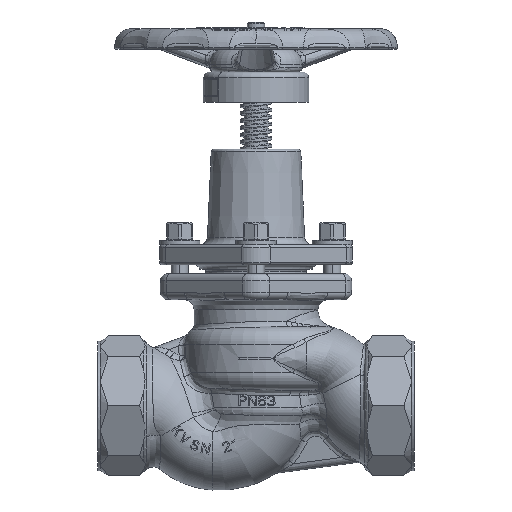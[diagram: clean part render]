
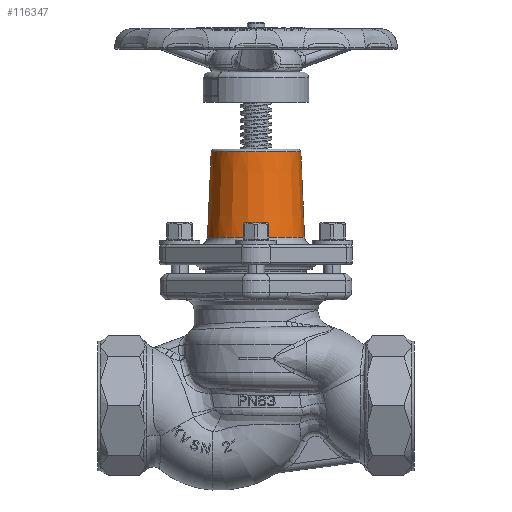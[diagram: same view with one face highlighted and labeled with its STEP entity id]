
A CAD part, front view. The second image highlights one B-rep face of the part: STEP entity #116347.
In plain terms, the highlighted conical face has half-angle 2.5 degrees and reference radius 32.475 mm.
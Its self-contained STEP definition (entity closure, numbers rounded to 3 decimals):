
#24628=DIRECTION('',(0.044,0.,-0.999));
#24629=VECTOR('',#24628,16.103);
#24630=CARTESIAN_POINT('',(31.18,0.,
176.687));
#24631=LINE('',#24630,#24629);
#24637=DIRECTION('',(-0.044,0.,-0.999));
#24638=VECTOR('',#24637,59.384);
#24639=CARTESIAN_POINT('',(-31.18,0.,176.687));
#24640=LINE('',#24639,#24638);
#24646=DIRECTION('',(0.044,0.,-0.999));
#24647=VECTOR('',#24646,39.277);
#24648=CARTESIAN_POINT('',(32.057,0.,156.6));
#24649=LINE('',#24648,#24647);
#24679=CARTESIAN_POINT('',(31.907,-2.,158.6));
#24680=CARTESIAN_POINT('',(31.905,-2.,158.642));
#24681=CARTESIAN_POINT('',(31.902,-1.997,
158.726));
#24682=CARTESIAN_POINT('',(31.897,-1.986,
158.851));
#24683=CARTESIAN_POINT('',(31.893,-1.966,
158.975));
#24684=CARTESIAN_POINT('',(31.889,-1.938,
159.098));
#24685=CARTESIAN_POINT('',(31.886,-1.903,
159.219));
#24686=CARTESIAN_POINT('',(31.883,-1.861,
159.337));
#24687=CARTESIAN_POINT('',(31.881,-1.811,
159.452));
#24688=CARTESIAN_POINT('',(31.879,-1.754,
159.564));
#24689=CARTESIAN_POINT('',(31.878,-1.69,
159.672));
#24690=CARTESIAN_POINT('',(31.877,-1.619,
159.776));
#24691=CARTESIAN_POINT('',(31.877,-1.542,
159.875));
#24692=CARTESIAN_POINT('',(31.877,-1.459,
159.969));
#24693=CARTESIAN_POINT('',(31.877,-1.371,
160.058));
#24694=CARTESIAN_POINT('',(31.877,-1.276,
160.142));
#24695=CARTESIAN_POINT('',(31.877,-1.177,
160.219));
#24696=CARTESIAN_POINT('',(31.878,-1.073,
160.289));
#24697=CARTESIAN_POINT('',(31.879,-0.965,
160.353));
#24698=CARTESIAN_POINT('',(31.879,-0.853,
160.411));
#24699=CARTESIAN_POINT('',(31.88,-0.737,
160.461));
#24700=CARTESIAN_POINT('',(31.881,-0.619,
160.503));
#24701=CARTESIAN_POINT('',(31.881,-0.498,
160.538));
#24702=CARTESIAN_POINT('',(31.882,-0.375,
160.566));
#24703=CARTESIAN_POINT('',(31.882,-0.251,
160.586));
#24704=CARTESIAN_POINT('',(31.882,-0.126,
160.597));
#24705=CARTESIAN_POINT('',(31.882,-0.042,160.6));
#24706=CARTESIAN_POINT('',(31.882,0.,160.6));
#24708=CARTESIAN_POINT('',(32.057,0.,156.6));
#24709=CARTESIAN_POINT('',(32.057,-0.042,156.6));
#24710=CARTESIAN_POINT('',(32.057,-0.125,
156.603));
#24711=CARTESIAN_POINT('',(32.056,-0.25,
156.614));
#24712=CARTESIAN_POINT('',(32.054,-0.374,
156.634));
#24713=CARTESIAN_POINT('',(32.051,-0.496,
156.661));
#24714=CARTESIAN_POINT('',(32.047,-0.617,
156.696));
#24715=CARTESIAN_POINT('',(32.043,-0.735,
156.739));
#24716=CARTESIAN_POINT('',(32.038,-0.85,
156.788));
#24717=CARTESIAN_POINT('',(32.032,-0.962,
156.845));
#24718=CARTESIAN_POINT('',(32.026,-1.07,
156.909));
#24719=CARTESIAN_POINT('',(32.019,-1.175,
156.98));
#24720=CARTESIAN_POINT('',(32.012,-1.274,
157.057));
#24721=CARTESIAN_POINT('',(32.004,-1.369,
157.14));
#24722=CARTESIAN_POINT('',(31.996,-1.458,
157.229));
#24723=CARTESIAN_POINT('',(31.988,-1.541,
157.323));
#24724=CARTESIAN_POINT('',(31.98,-1.618,
157.423));
#24725=CARTESIAN_POINT('',(31.972,-1.689,
157.527));
#24726=CARTESIAN_POINT('',(31.964,-1.753,
157.635));
#24727=CARTESIAN_POINT('',(31.956,-1.811,
157.747));
#24728=CARTESIAN_POINT('',(31.948,-1.861,
157.863));
#24729=CARTESIAN_POINT('',(31.94,-1.903,
157.981));
#24730=CARTESIAN_POINT('',(31.933,-1.938,
158.102));
#24731=CARTESIAN_POINT('',(31.926,-1.966,
158.225));
#24732=CARTESIAN_POINT('',(31.919,-1.986,
158.349));
#24733=CARTESIAN_POINT('',(31.913,-1.997,
158.474));
#24734=CARTESIAN_POINT('',(31.909,-2.,158.558));
#24735=CARTESIAN_POINT('',(31.907,-2.,158.6));
#24737=CARTESIAN_POINT('',(0.,0.,117.36));
#24738=DIRECTION('',(0.,0.,1.));
#24739=DIRECTION('',(-1.,0.,0.));
#24740=AXIS2_PLACEMENT_3D('',#24737,#24738,#24739);
#24742=CARTESIAN_POINT('',(0.,0.,176.687));
#24743=DIRECTION('',(0.,0.,-1.));
#24744=DIRECTION('',(1.,0.,0.));
#24745=AXIS2_PLACEMENT_3D('',#24742,#24743,#24744);
#46307=CARTESIAN_POINT('',(31.18,0.,176.687));
#46308=CARTESIAN_POINT('',(-31.18,0.,176.687));
#46309=VERTEX_POINT('',#46307);
#46310=VERTEX_POINT('',#46308);
#46315=CARTESIAN_POINT('',(-33.77,0.,117.36));
#46316=CARTESIAN_POINT('',(33.77,0.,117.36));
#46317=VERTEX_POINT('',#46315);
#46318=VERTEX_POINT('',#46316);
#47467=VERTEX_POINT('',#24679);
#47468=VERTEX_POINT('',#24706);
#47469=VERTEX_POINT('',#24708);
#116331=CARTESIAN_POINT('',(0.,0.,147.024));
#116332=DIRECTION('',(0.,0.,-1.));
#116333=DIRECTION('',(-1.,0.,0.));
#116334=AXIS2_PLACEMENT_3D('',#116331,#116332,#116333);
#116335=CONICAL_SURFACE('',#116334,32.475,2.5);
#116336=ORIENTED_EDGE('',*,*,#116182,.F.);
#116337=ORIENTED_EDGE('',*,*,#116306,.F.);
#116338=ORIENTED_EDGE('',*,*,#116325,.T.);
#116340=ORIENTED_EDGE('',*,*,#116339,.F.);
#116341=ORIENTED_EDGE('',*,*,#116322,.F.);
#116343=ORIENTED_EDGE('',*,*,#116342,.F.);
#116344=ORIENTED_EDGE('',*,*,#116318,.T.);
#116345=EDGE_LOOP('',(#116336,#116337,#116338,#116340,#116341,#116343,#116344));
#116346=FACE_OUTER_BOUND('',#116345,.F.);
#24707=B_SPLINE_CURVE_WITH_KNOTS('',3,(#24679,#24680,#24681,#24682,#24683,
#24684,#24685,#24686,#24687,#24688,#24689,#24690,#24691,#24692,#24693,#24694,
#24695,#24696,#24697,#24698,#24699,#24700,#24701,#24702,#24703,#24704,#24705,
#24706),.UNSPECIFIED.,.F.,.F.,(4,1,1,1,1,1,1,1,1,1,1,1,1,1,1,1,1,1,1,1,1,1,1,1,
1,4),(0.,0.04,0.08,0.12,0.16,0.2,0.24,0.28,0.32,0.36,0.4,
0.44,0.48,0.52,0.56,0.6,0.64,0.68,0.72,0.76,0.8,0.84,
0.88,0.92,0.96,1.),.UNSPECIFIED.);
#24736=B_SPLINE_CURVE_WITH_KNOTS('',3,(#24708,#24709,#24710,#24711,#24712,
#24713,#24714,#24715,#24716,#24717,#24718,#24719,#24720,#24721,#24722,#24723,
#24724,#24725,#24726,#24727,#24728,#24729,#24730,#24731,#24732,#24733,#24734,
#24735),.UNSPECIFIED.,.F.,.F.,(4,1,1,1,1,1,1,1,1,1,1,1,1,1,1,1,1,1,1,1,1,1,1,1,
1,4),(0.,0.04,0.08,0.12,0.16,0.2,0.24,0.28,0.32,0.36,0.4,
0.44,0.48,0.52,0.56,0.6,0.64,0.68,0.72,0.76,0.8,0.84,
0.88,0.92,0.96,1.),.UNSPECIFIED.);
#24741=CIRCLE('',#24740,33.77);
#24746=CIRCLE('',#24745,31.18);
#116182=EDGE_CURVE('',#47467,#47468,#24707,.T.);
#116306=EDGE_CURVE('',#47469,#47467,#24736,.T.);
#116318=EDGE_CURVE('',#46309,#47468,#24631,.T.);
#116322=EDGE_CURVE('',#46310,#46317,#24640,.T.);
#116325=EDGE_CURVE('',#47469,#46318,#24649,.T.);
#116339=EDGE_CURVE('',#46317,#46318,#24741,.T.);
#116342=EDGE_CURVE('',#46309,#46310,#24746,.T.);
#116347=ADVANCED_FACE('',(#116346),#116335,.T.);
